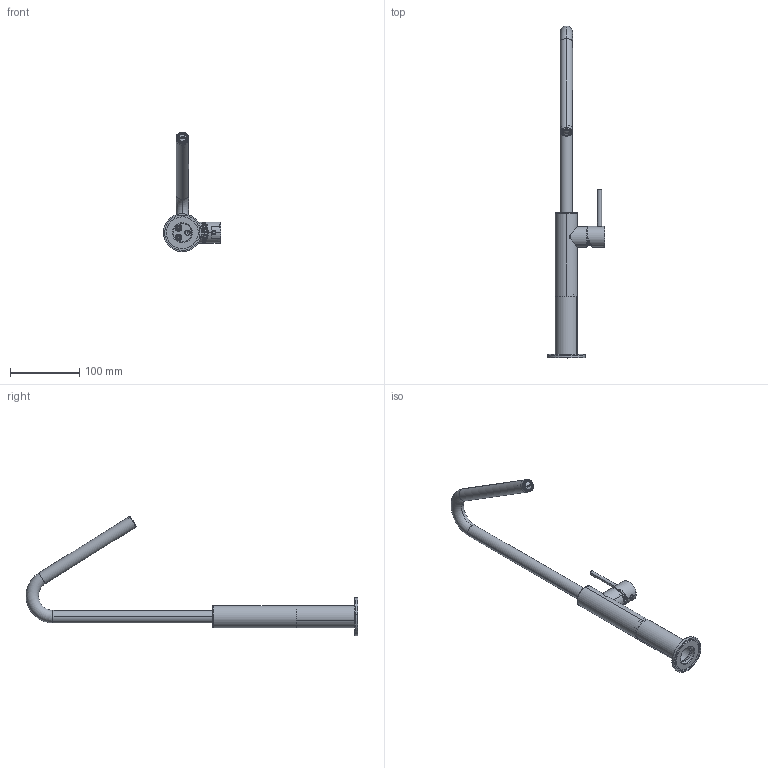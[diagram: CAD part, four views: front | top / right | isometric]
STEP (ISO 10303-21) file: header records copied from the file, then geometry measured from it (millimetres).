
FILE_DESCRIPTION (( 'STEP AP203' ), '1' );
FILE_NAME ('MME51.STEP', '2025-02-07T07:46:29', ( '' ), ( '' ), 'SwSTEP 2.0', 'SolidWorks 2024', '' );
FILE_SCHEMA (( 'CONFIG_CONTROL_DESIGN' ));
Length unit declared in the file: millimetre
Products named in the file (21): C13.00.0043; C24.2075.00.0; C24.1475.00.0; C11.14.0014; C24.0029.00.1; C10.00.0013; C12.00.0004; C24.0699.00.0; C23.0824.01; C12.00.0054; C24.0370.00.3; C21.0649.00.0; C24.0372.00.1; C24.0119.00.2; C24.0120.00.1; C21.0648.00.1; C11.14.0019; C19.11.0029.43; MME51; C47.00.0023.01; C24.0093.00.2
Assembly tree (22 placements, depth 3):
  MME51
    C11.14.0014
    C24.0093.00.2
    C19.11.0029.43
      C24.0370.00.3
      C24.2075.00.0
    C24.0029.00.1
    C24.0372.00.1
    C24.0119.00.2
    C24.0120.00.1
    C10.00.0013
    C23.0824.01
    C24.0699.00.0
    C21.0648.00.1
    C21.0649.00.0  x2
    C12.00.0054  x2
    C47.00.0023.01
    C11.14.0019
    C12.00.0004
    C13.00.0043
    C24.1475.00.0
Bounding box: 82.99 x 479.96 x 172.69 mm (x, y, z)
Volume: 135371.6 mm3; surface area: 129796.2 mm2
Topology: 20 solids, 30 shells, 1150 faces, 3140 edges, 2037 vertices
Faces by surface type: cylinder 436, plane 366, cone 196, bspline 86, torus 66
Entity records: 42799 total; most frequent: CARTESIAN_POINT 13344, ORIENTED_EDGE 5604, DIRECTION 5574, EDGE_CURVE 3032, AXIS2_PLACEMENT_3D 2190, VERTEX_POINT 1989, EDGE_LOOP 1225, LINE 1194
